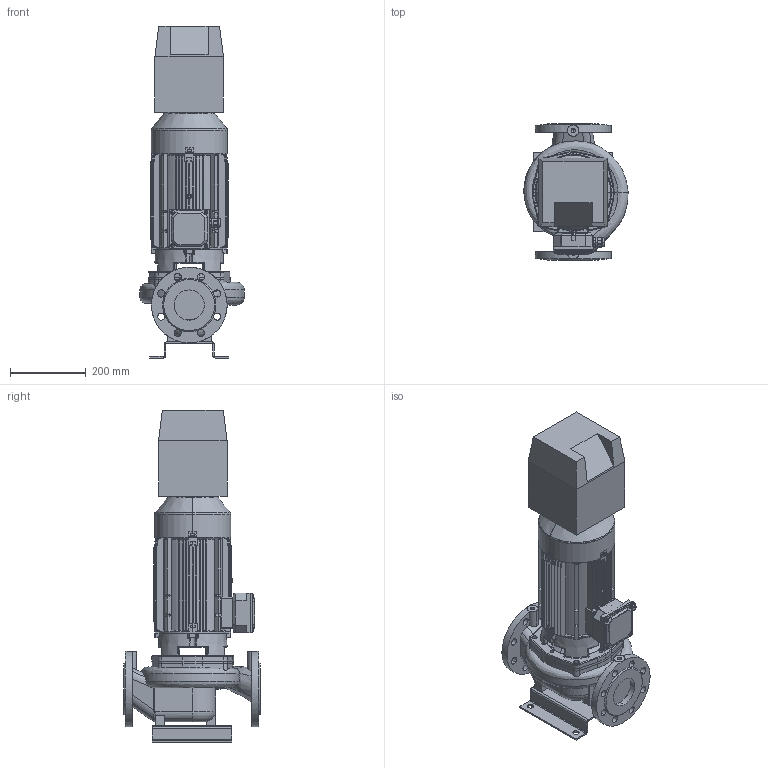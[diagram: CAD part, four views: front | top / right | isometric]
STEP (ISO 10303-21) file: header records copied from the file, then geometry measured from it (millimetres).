
FILE_DESCRIPTION(('STEP AP214'),'1');
FILE_NAME('export.stp','2018-08-08T13:51:14',(' '),(' '),'Spatial InterOp 3D',' ',' ');
FILE_SCHEMA(('AUTOMOTIVE_DESIGN { 1 0 10303 214 1 1 1 1 }'));
Length unit declared in the file: millimetre
Products named in the file (32): W_L80A4NC300KP; V_TLL65AB80A1102; V_PPL80A; V_JALKA35973; 160027; 160005; KP100F19_4_22; D25_D62_B17_6305; D25_D62_B17_6305_P1; D25_D62_B17_6305_P2; D25_D62_B17_6305_P3; 6305; M5x8_DIN; DIN_7985-M5X8; 160141; M5x12_DIN; DIN_7985-M5X12; 160137; 160138; 160139; 160140; Koura_Ale_M5; Plug_Blind_M20; Sealing_Plug_M20; plain_washer_grade_a_din_Washer_; 160060___; 160059___; 160136; NC_Size1
Assembly tree (34 placements, depth 5):
  W_L80A4NC300KP
    V_TLL65AB80A1102
    V_PPL80A
    V_JALKA35973
    KP100F19_4_22
      160027
        160005
      6305
        D25_D62_B17_6305
          D25_D62_B17_6305_P1
          D25_D62_B17_6305_P2
          D25_D62_B17_6305_P3
      160141
        M5x8_DIN
          DIN_7985-M5X8
        M5x12_DIN
          DIN_7985-M5X12
        M5x12_DIN
          DIN_7985-M5X12
        M5x12_DIN
          DIN_7985-M5X12
        M5x12_DIN
          DIN_7985-M5X12
        160137
        160138
        160139
        160140
        Koura_Ale_M5
        Plug_Blind_M20
        Sealing_Plug_M20
        plain_washer_grade_a_din_Washer_
      160060___
      160059___
      160136
    NC_Size1
Bounding box: 275.57 x 360 x 877.5 mm (x, y, z)
Volume: 15646748.2 mm3; surface area: 1979488.9 mm2
Topology: 25 solids, 25 shells, 2513 faces, 6756 edges, 4285 vertices
Faces by surface type: plane 1065, cylinder 784, bspline 270, torus 232, cone 147, sphere 15
Entity records: 100557 total; most frequent: CARTESIAN_POINT 35248, ORIENTED_EDGE 13132, DIRECTION 12021, EDGE_CURVE 6566, AXIS2_PLACEMENT_3D 4495, VERTEX_POINT 4189, LINE 3031, VECTOR 3031
